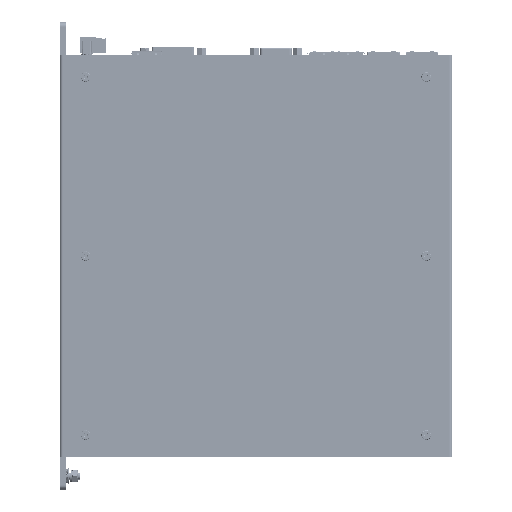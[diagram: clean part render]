
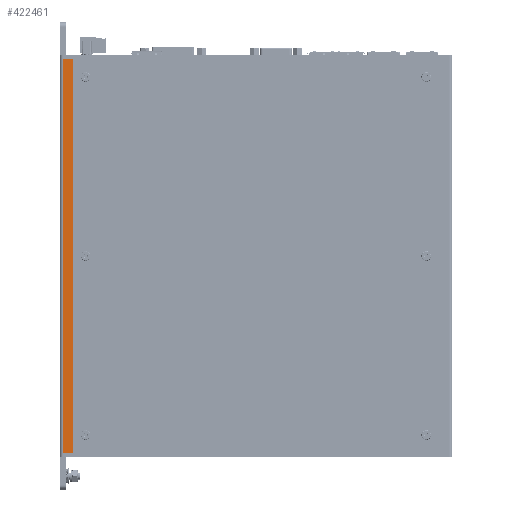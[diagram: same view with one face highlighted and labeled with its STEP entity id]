
A CAD part, front view. The second image highlights one B-rep face of the part: STEP entity #422461.
In plain terms, the highlighted planar face has unit normal (0, -1, 0) as drawn and (-1, 0, 0) by its records, which use the part's own axes.
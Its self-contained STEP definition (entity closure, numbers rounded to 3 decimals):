
#83454 = CARTESIAN_POINT ( 'NONE',  ( -45., 113., -7.5 ) ) ;
#152436 = ORIENTED_EDGE ( 'NONE', *, *, #299912, .F. ) ;
#163538 = VECTOR ( 'NONE', #471501, 1000. ) ;
#171272 = EDGE_CURVE ( 'NONE', #414619, #455618, #621367, .T. ) ;
#179716 = CARTESIAN_POINT ( 'NONE',  ( -45., -113., -19. ) ) ;
#181321 = EDGE_LOOP ( 'NONE', ( #152436, #626005, #417131, #331982 ) ) ;
#182768 = CARTESIAN_POINT ( 'NONE',  ( -45., 113., -2. ) ) ;
#236226 = EDGE_CURVE ( 'NONE', #355307, #512433, #565478, .T. ) ;
#236740 = DIRECTION ( 'NONE',  ( 0., 0., 1. ) ) ;
#245415 = LINE ( 'NONE', #575216, #618848 ) ;
#249857 = DIRECTION ( 'NONE',  ( 0., 0., 1. ) ) ;
#258426 = CARTESIAN_POINT ( 'NONE',  ( -45., -113., -7.5 ) ) ;
#264426 = FACE_OUTER_BOUND ( 'NONE', #181321, .T. ) ;
#299434 = EDGE_CURVE ( 'NONE', #355307, #455618, #418416, .T. ) ;
#299912 = EDGE_CURVE ( 'NONE', #512433, #414619, #245415, .T. ) ;
#328264 = CARTESIAN_POINT ( 'NONE',  ( -45., 113., -2. ) ) ;
#331982 = ORIENTED_EDGE ( 'NONE', *, *, #171272, .F. ) ;
#345938 = PLANE ( 'NONE',  #490538 ) ;
#355307 = VERTEX_POINT ( 'NONE', #258426 ) ;
#369272 = CARTESIAN_POINT ( 'NONE',  ( -45., -113., -7.5 ) ) ;
#414619 = VERTEX_POINT ( 'NONE', #328264 ) ;
#417131 = ORIENTED_EDGE ( 'NONE', *, *, #299434, .T. ) ;
#418416 = LINE ( 'NONE', #369272, #163538 ) ;
#421051 = VECTOR ( 'NONE', #592600, 1000. ) ;
#422461 = ADVANCED_FACE ( 'NONE', ( #264426 ), #345938, .T. ) ;
#444147 = DIRECTION ( 'NONE',  ( 0., -1., 0. ) ) ;
#455618 = VERTEX_POINT ( 'NONE', #569168 ) ;
#471501 = DIRECTION ( 'NONE',  ( 0., 0., 1. ) ) ;
#483369 = CARTESIAN_POINT ( 'NONE',  ( -45., -113., -7.5 ) ) ;
#490538 = AXIS2_PLACEMENT_3D ( 'NONE', #179716, #676162, #236740 ) ;
#512433 = VERTEX_POINT ( 'NONE', #83454 ) ;
#528003 = VECTOR ( 'NONE', #444147, 1000. ) ;
#565478 = LINE ( 'NONE', #483369, #421051 ) ;
#569168 = CARTESIAN_POINT ( 'NONE',  ( -45., -113., -2. ) ) ;
#575216 = CARTESIAN_POINT ( 'NONE',  ( -45., 113., -7.5 ) ) ;
#592600 = DIRECTION ( 'NONE',  ( 0., 1., 0. ) ) ;
#618848 = VECTOR ( 'NONE', #249857, 1000. ) ;
#621367 = LINE ( 'NONE', #182768, #528003 ) ;
#626005 = ORIENTED_EDGE ( 'NONE', *, *, #236226, .F. ) ;
#676162 = DIRECTION ( 'NONE',  ( -1., 0., 0. ) ) ;
